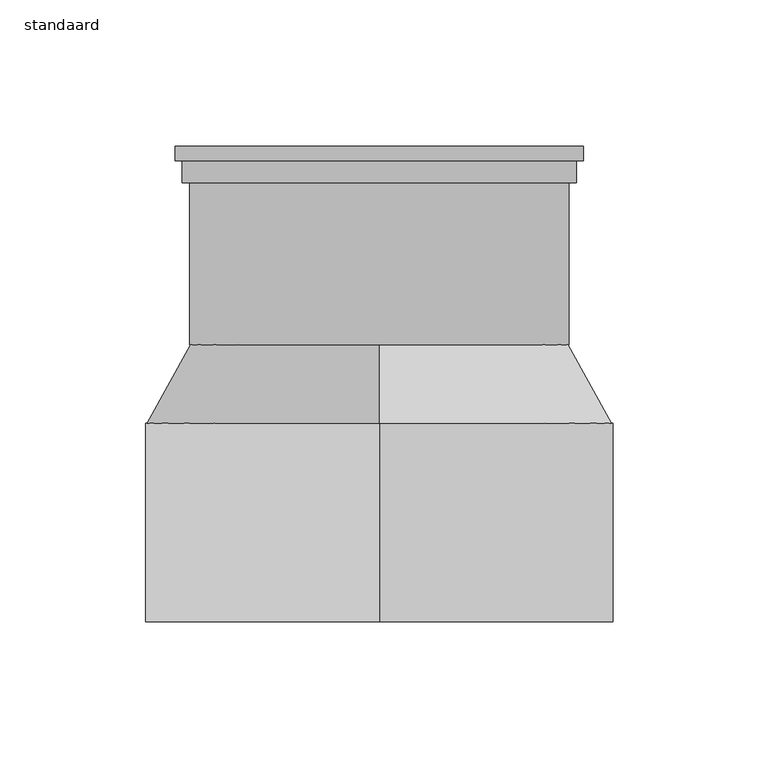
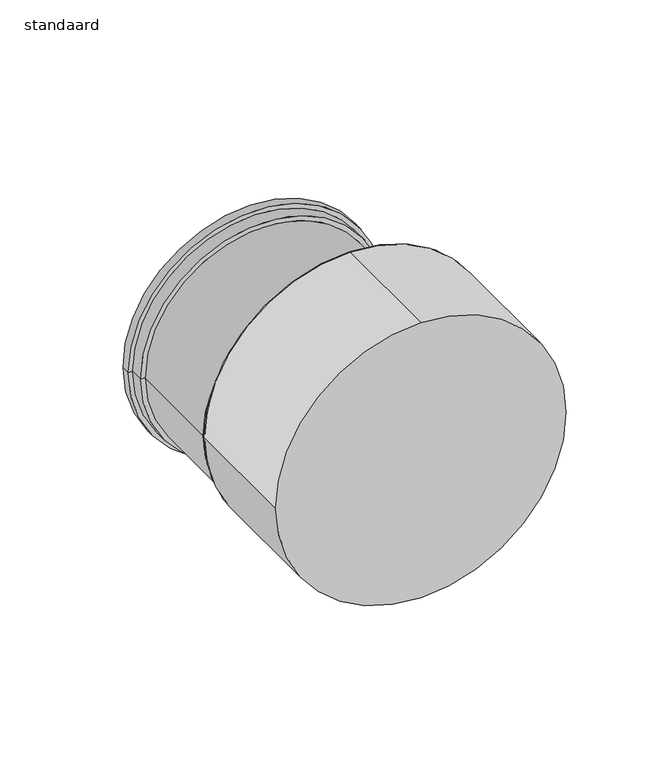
"""IFC4 building model written with IfcOpenShell, lengths in millimetres: pipe fitting geometry, 400_52_Dyka_PP_DykaStil_verloop : standaard."""

import ifcopenshell
import ifcopenshell.guid

model = None  # the IFC model being written
_history = None  # IfcOwnerHistory: only IFC2X3 demands one
_inside = {}  # id of a spatial element -> (the spatial element, [elements in it])
_under = {}  # id of a project, library or spatial element -> (it, [spatial elements below it])
_declared = {}  # id of a project -> (the project, [libraries it declares])
_typed = {}  # id of a type object -> (the type object, [elements of that type])
_made_of = {}  # id of a material, layer set ... -> (it, [elements and type objects made of it])


def new_model(schema):
    """Start an empty IFC model of exactly this schema.

    Asked for "IFC4X3", IfcOpenShell would pick the latest addendum, in which some entities
    have other attributes; the version numbers below select the first issue.
    IFC2X3 requires an IfcOwnerHistory on every rooted entity: one is made here for all.
    """
    global model, _history
    if schema == "IFC4X3":
        model = ifcopenshell.file(schema_version=(4, 3, 0, 0))
    else:
        model = ifcopenshell.file(schema=schema)
    _inside.clear()
    _under.clear()
    _declared.clear()
    _typed.clear()
    _made_of.clear()
    _history = None
    if model.schema == "IFC2X3":
        org = make("IfcOrganization", Name="unknown")
        user = make(
            "IfcPersonAndOrganization",
            ThePerson=make("IfcPerson", FamilyName="unknown"),
            TheOrganization=org,
        )
        app = make(
            "IfcApplication",
            ApplicationDeveloper=org,
            Version="unknown",
            ApplicationFullName="unknown",
            ApplicationIdentifier="unknown",
        )
        _history = make(
            "IfcOwnerHistory",
            OwningUser=user,
            OwningApplication=app,
            ChangeAction="ADDED",
            CreationDate=0,
        )
    return model


def make(cls, **values):
    """One entity of the class cls with the attributes given. An attribute that is None is left unset."""
    return model.create_entity(
        cls, **{name: value for name, value in values.items() if value is not None}
    )


def rooted(cls, **values):
    """An entity with a GlobalId (a new one), such as an element, a storey or a relation."""
    return make(cls, GlobalId=ifcopenshell.guid.new(), OwnerHistory=_history, **values)


def si_unit(unit_type, name, prefix=None):
    """IfcSIUnit, for example si_unit("LENGTHUNIT", "METRE", prefix="MILLI")."""
    return make("IfcSIUnit", UnitType=unit_type, Prefix=prefix, Name=name)


def assignment(units):
    """IfcUnitAssignment: the units of a project."""
    return None if units is None else make("IfcUnitAssignment", Units=units)


def point(xyz):
    """IfcCartesianPoint."""
    return None if xyz is None else make("IfcCartesianPoint", Coordinates=xyz)


def direction(xyz):
    """IfcDirection."""
    return None if xyz is None else make("IfcDirection", DirectionRatios=xyz)


def frame(location, z_axis=None, x_axis=None):
    """IfcAxis2Placement3D, a coordinate frame: its origin and axes. An axis left out is left unset."""
    return make(
        "IfcAxis2Placement3D",
        Location=point(location),
        Axis=direction(z_axis),
        RefDirection=direction(x_axis),
    )


def frame_2d(location, x_axis=None):
    """IfcAxis2Placement2D, a coordinate frame in the plane: its origin and x axis."""
    return make(
        "IfcAxis2Placement2D", Location=point(location), RefDirection=direction(x_axis)
    )


def origin():
    """The frame at (0, 0, 0) with its axes left unset."""
    return frame((0.0, 0.0, 0.0))


def origin_2d():
    """The frame at (0, 0) in the plane with its x axis left unset."""
    return frame_2d((0.0, 0.0))


def place(relative_to, where):
    """IfcLocalPlacement: puts the frame where relative to a parent placement (None: the world)."""
    return make(
        "IfcLocalPlacement", PlacementRelTo=relative_to, RelativePlacement=where
    )


def context(
    kind, dimensions, precision=None, world=None, true_north=None, identifier=None
):
    """IfcGeometricRepresentationContext, for example the 3D "Model" context."""
    return make(
        "IfcGeometricRepresentationContext",
        ContextIdentifier=identifier,
        ContextType=kind,
        CoordinateSpaceDimension=dimensions,
        Precision=precision,
        WorldCoordinateSystem=world,
        TrueNorth=true_north,
    )


def project(units=None, contexts=None):
    """IfcProject with its units and contexts."""
    return rooted(
        "IfcProject",
        Name="project",
        RepresentationContexts=contexts,
        UnitsInContext=assignment(units),
    )


def spatial(cls, under=None, at=None, **own):
    """A site, building, storey or space (cls), placed at a placement, below another one or the project."""
    s = rooted(cls, ObjectPlacement=at, **own)
    if under is not None:
        _under.setdefault(under.id(), (under, []))[1].append(s)
    return s


def polyline(points):
    """IfcPolyline through the points."""
    return make("IfcPolyline", Points=[point(p) for p in points])


def circle_curve(where, radius):
    """IfcCircle in the frame where."""
    return make("IfcCircle", Position=where, Radius=radius)


def trimmed(basis, trim1, trim2, sense, master):
    """IfcTrimmedCurve: the piece of a basis curve between two trims."""
    return make(
        "IfcTrimmedCurve",
        BasisCurve=basis,
        Trim1=trim1,
        Trim2=trim2,
        SenseAgreement=sense,
        MasterRepresentation=master,
    )


def segment(curve, same_sense, transition):
    """IfcCompositeCurveSegment."""
    return make(
        "IfcCompositeCurveSegment",
        Transition=transition,
        SameSense=same_sense,
        ParentCurve=curve,
    )


def composite_curve(segments, self_intersect=None):
    """IfcCompositeCurve: segments joined end to end."""
    return make("IfcCompositeCurve", Segments=segments, SelfIntersect=self_intersect)


def outline(outer, holes=None, kind="AREA"):
    """IfcArbitraryClosedProfileDef: a profile drawn as a closed curve; with holes, ...WithVoids."""
    if holes is None:
        return make("IfcArbitraryClosedProfileDef", ProfileType=kind, OuterCurve=outer)
    return make(
        "IfcArbitraryProfileDefWithVoids",
        ProfileType=kind,
        OuterCurve=outer,
        InnerCurves=holes,
    )


def extrude(swept, where, along, depth):
    """IfcExtrudedAreaSolid: the profile swept, set in the frame where, extruded along a direction by depth."""
    return make(
        "IfcExtrudedAreaSolid",
        SweptArea=swept,
        Position=where,
        ExtrudedDirection=direction(along),
        Depth=depth,
    )


def shape(context_of_items, identifier, shape_type, items):
    """IfcShapeRepresentation: the items that make up one representation, for example the "Body"."""
    return make(
        "IfcShapeRepresentation",
        ContextOfItems=context_of_items,
        RepresentationIdentifier=identifier,
        RepresentationType=shape_type,
        Items=items,
    )


def source(mapping_origin, context_of_items, identifier, shape_type, items):
    """IfcRepresentationMap: a shape defined once, which mapped items show again and again."""
    return make(
        "IfcRepresentationMap",
        MappingOrigin=mapping_origin,
        MappedRepresentation=shape(context_of_items, identifier, shape_type, items),
    )


def transform(
    local_origin,
    x_axis=None,
    y_axis=None,
    z_axis=None,
    scale=None,
    scale2=None,
    scale3=None,
    uniform=True,
):
    """IfcCartesianTransformationOperator3D, or its non-uniform kind. x_axis, y_axis, z_axis: its Axis1, 2, 3."""
    if uniform:
        return make(
            "IfcCartesianTransformationOperator3D",
            Axis1=direction(x_axis),
            Axis2=direction(y_axis),
            LocalOrigin=point(local_origin),
            Scale=scale,
            Axis3=direction(z_axis),
        )
    return make(
        "IfcCartesianTransformationOperator3DnonUniform",
        Axis1=direction(x_axis),
        Axis2=direction(y_axis),
        LocalOrigin=point(local_origin),
        Scale=scale,
        Axis3=direction(z_axis),
        Scale2=scale2,
        Scale3=scale3,
    )


def mapped(mapping_source, mapping_target):
    """IfcMappedItem: shows the shape of a source again, moved by a transform."""
    return make(
        "IfcMappedItem", MappingSource=mapping_source, MappingTarget=mapping_target
    )


def made_of(thing, what):
    """Note that an element or type object is made of a material, layer set ...; save() writes the relation."""
    if what is not None:
        _made_of.setdefault(what.id(), (what, []))[1].append(thing)
    return thing


def element(
    cls,
    number,
    at=None,
    inside=None,
    cuts=None,
    type_object=None,
    material=None,
    context=None,
    identifier="Body",
    shape_type=None,
    held_by="IfcProductDefinitionShape",
    body=None,
    shapes=None,
    **own,
):
    """One element of the class cls, such as IfcWall. Its Tag is "e" and its number.

    at: its placement. inside: the storey or other place that contains it. cuts: it is an
    opening in that element (IfcRelVoidsElement). A single representation is given by context,
    identifier, shape_type and body (its items); several are given by shapes. held_by: the class
    of the entity that holds the representations. save() writes the other relations.
    """
    e = rooted(cls, Tag="e%d" % number, ObjectPlacement=at, **own)
    if body is not None:
        shapes = [shape(context, identifier, shape_type, body)]
    if shapes is not None:
        e.Representation = make(held_by, Representations=shapes)
    if inside is not None:
        _inside.setdefault(inside.id(), (inside, []))[1].append(e)
    if cuts is not None:
        rooted(
            "IfcRelVoidsElement", RelatingBuildingElement=cuts, RelatedOpeningElement=e
        )
    if type_object is not None:
        _typed.setdefault(type_object.id(), (type_object, []))[1].append(e)
    return made_of(e, material)


def aggregate(whole, parts):
    """IfcRelAggregates: a whole, such as a stair, and the parts it consists of."""
    return rooted("IfcRelAggregates", RelatingObject=whole, RelatedObjects=parts)


def save(model, path):
    """Write the relations noted so far, then the file.

    IfcRelAggregates (storeys below a building ...), IfcRelContainedInSpatialStructure (elements
    in a storey), IfcRelDefinesByType, IfcRelAssociatesMaterial and IfcRelDeclares: one each for
    every whole, place, type object, material and project.
    """
    for whole, parts in _under.values():
        aggregate(whole, parts)
    for where, things in _inside.values():
        rooted(
            "IfcRelContainedInSpatialStructure",
            RelatedElements=things,
            RelatingStructure=where,
        )
    for kind, things in _typed.values():
        rooted("IfcRelDefinesByType", RelatedObjects=things, RelatingType=kind)
    for what, things in _made_of.values():
        rooted("IfcRelAssociatesMaterial", RelatedObjects=things, RelatingMaterial=what)
    for by, libraries in _declared.values():
        rooted("IfcRelDeclares", RelatingContext=by, RelatedDefinitions=libraries)
    model.write(path)


def plane_surface(at):
    """IfcPlane: the flat surface through the origin of the frame at, square to its z axis."""
    return make("IfcPlane", Position=at)


def cylinder_surface(at, radius):
    """IfcCylindricalSurface: all points at the distance radius from the z axis of the frame at."""
    return make("IfcCylindricalSurface", Position=at, Radius=radius)


def revolved_surface(curve, axis_point, axis_direction):
    """IfcSurfaceOfRevolution: the curve turned about the line through axis_point along axis_direction."""
    return make(
        "IfcSurfaceOfRevolution",
        SweptCurve=make("IfcArbitraryOpenProfileDef", ProfileType="CURVE", Curve=curve),
        AxisPosition=make("IfcAxis1Placement", Location=point(axis_point), Axis=direction(axis_direction)),
    )


def spline_surface(u_degree, v_degree, points, u_multiplicities, v_multiplicities, u_knots, v_knots, weights=None):
    """IfcBSplineSurfaceWithKnots; with weights, IfcRationalBSplineSurfaceWithKnots. points: one row for each step in u."""
    own = dict(
        UDegree=u_degree,
        VDegree=v_degree,
        ControlPointsList=[[point(p) for p in row] for row in points],
        SurfaceForm="UNSPECIFIED",
        UClosed=False,
        VClosed=False,
        SelfIntersect=False,
        UMultiplicities=u_multiplicities,
        VMultiplicities=v_multiplicities,
        UKnots=u_knots,
        VKnots=v_knots,
        KnotSpec="UNSPECIFIED",
    )
    if weights is None:
        return make("IfcBSplineSurfaceWithKnots", **own)
    return make("IfcRationalBSplineSurfaceWithKnots", WeightsData=weights, **own)


def advanced_brep(points, edges, surfaces, faces):
    """IfcAdvancedBrep: a solid bounded by faces that lie on surfaces and meet in shared edges.

    An edge is (start, end): straight between two places in points (the first is 0);
    or (start, end, curve); or (start, end, curve, False) where it runs against its curve.
    A face is (place in surfaces, loops), or (place, loops, False) where it looks against
    its surface's normal. A loop lists edges by number (the first is 1), with a minus sign
    where the edge is run from its end to its start. The first loop is the outer one.
    """
    corners = [point(p) for p in points]
    vertices = [make("IfcVertexPoint", VertexGeometry=c) for c in corners]
    made = []
    for start, end, *more in edges:
        made.append(
            make(
                "IfcEdgeCurve",
                EdgeStart=vertices[start],
                EdgeEnd=vertices[end],
                EdgeGeometry=more[0] if more else make("IfcPolyline", Points=[corners[start], corners[end]]),
                SameSense=more[1] if len(more) > 1 else True,
            )
        )
    hull = []
    for where, loops, *sense in faces:
        bounds = []
        for j, loop in enumerate(loops):
            ring = [make("IfcOrientedEdge", EdgeElement=made[abs(k) - 1], Orientation=k > 0) for k in loop]
            bounds.append(
                make(
                    "IfcFaceOuterBound" if j == 0 else "IfcFaceBound",
                    Bound=make("IfcEdgeLoop", EdgeList=ring),
                    Orientation=True,
                )
            )
        hull.append(make("IfcAdvancedFace", Bounds=bounds, FaceSurface=surfaces[where], SameSense=sense[0] if sense else True))
    return make("IfcAdvancedBrep", Outer=make("IfcClosedShell", CfsFaces=hull))


def standaard_776c825a(model_context):
    return source(origin(), model_context, "Body", "SolidModel", [
        advanced_brep(
        [(-67.5, 82.5, -20.5), (67.5, 82.5, -20.5), (65.0, 82.5, -20.5), (-65.0, 82.5, -20.5), (-67.5, 90.0, -20.5), (67.5, 90.0, -20.5), (-70.0, 90.0, -20.5), (70.0, 90.0, -20.5), (-70.0, 95.0, -20.5), (70.0, 95.0, -20.5), (-62.5, 95.0, -20.5), (62.5, 95.0, -20.5), (-65.0, 27.0, -20.5), (65.0, 27.0, -20.5), (-62.5, 27.0, -20.5), (62.5, 27.0, -20.5)],
        [
            (0, 1, circle_curve(frame((0.0, 82.5, -20.5), z_axis=(0.0, -1.0, 0.0), x_axis=(1.0, 0.0, 0.0)), 67.5)),
            (1, 2),
            (2, 3, circle_curve(frame((0.0, 82.5, -20.5), z_axis=(0.0, 1.0, 0.0), x_axis=(1.0, 0.0, 0.0)), 65.0)),
            (3, 0),
            (1, 0, circle_curve(frame((0.0, 82.5, -20.5), z_axis=(0.0, -1.0, 0.0), x_axis=(1.0, 0.0, 0.0)), 67.5)),
            (3, 2, circle_curve(frame((0.0, 82.5, -20.5), z_axis=(0.0, 1.0, 0.0), x_axis=(1.0, 0.0, 0.0)), 65.0)),
            (0, 4),
            (4, 5, circle_curve(frame((0.0, 90.0, -20.5), z_axis=(0.0, -1.0, 0.0), x_axis=(1.0, 0.0, 0.0)), 67.5)),
            (5, 1),
            (5, 4, circle_curve(frame((0.0, 90.0, -20.5), z_axis=(0.0, -1.0, 0.0), x_axis=(1.0, 0.0, 0.0)), 67.5)),
            (4, 6),
            (6, 7, circle_curve(frame((0.0, 90.0, -20.5), z_axis=(0.0, -1.0, 0.0), x_axis=(1.0, 0.0, 0.0)), 70.0)),
            (7, 5),
            (7, 6, circle_curve(frame((0.0, 90.0, -20.5), z_axis=(0.0, -1.0, 0.0), x_axis=(1.0, 0.0, 0.0)), 70.0)),
            (6, 8),
            (8, 9, circle_curve(frame((0.0, 95.0, -20.5), z_axis=(0.0, -1.0, 0.0), x_axis=(1.0, 0.0, 0.0)), 70.0)),
            (9, 7),
            (9, 8, circle_curve(frame((0.0, 95.0, -20.5), z_axis=(0.0, -1.0, 0.0), x_axis=(1.0, 0.0, 0.0)), 70.0)),
            (10, 11, circle_curve(frame((0.0, 95.0, -20.5), z_axis=(0.0, -1.0, 0.0), x_axis=(1.0, 0.0, 0.0)), 62.5)),
            (11, 10, circle_curve(frame((0.0, 95.0, -20.5), z_axis=(0.0, -1.0, 0.0), x_axis=(1.0, 0.0, 0.0)), 62.5)),
            (12, 13, circle_curve(frame((0.0, 27.0, -20.5), z_axis=(0.0, -1.0, 0.0), x_axis=(1.0, 0.0, 0.0)), 65.0)),
            (13, 12, circle_curve(frame((0.0, 27.0, -20.5), z_axis=(0.0, -1.0, 0.0), x_axis=(1.0, 0.0, 0.0)), 65.0)),
            (14, 15, circle_curve(frame((0.0, 27.0, -20.5), z_axis=(0.0, 1.0, 0.0), x_axis=(1.0, 0.0, 0.0)), 62.5)),
            (15, 14, circle_curve(frame((0.0, 27.0, -20.5), z_axis=(0.0, 1.0, 0.0), x_axis=(1.0, 0.0, 0.0)), 62.5)),
            (10, 14),
            (15, 11),
            (13, 2),
            (3, 12),
        ],
        [
            plane_surface(frame((0.0, 82.5, -20.5), z_axis=(0.0, -1.0, 0.0), x_axis=(1.0, 0.0, 0.0))),
            cylinder_surface(frame((0.0, 95.0, -20.5), z_axis=(0.0, 1.0, 0.0), x_axis=(1.0, 0.0, 0.0)), 67.5),
            plane_surface(frame((0.0, 90.0, -20.5), z_axis=(0.0, -1.0, 0.0), x_axis=(1.0, 0.0, 0.0))),
            cylinder_surface(frame((0.0, 95.0, -20.5), z_axis=(0.0, 1.0, 0.0), x_axis=(1.0, 0.0, 0.0)), 70.0),
            plane_surface(frame((0.0, 95.0, -20.5), z_axis=(0.0, 1.0, 0.0), x_axis=(1.0, 0.0, 0.0))),
            plane_surface(frame((0.0, 27.0, -20.5), z_axis=(0.0, -1.0, 0.0), x_axis=(0.0, 0.0, 1.0))),
            revolved_surface(polyline([(62.5, 27.0, -20.5), (62.5, 95.0, -20.5)]), (0.0, 95.0, -20.5), (0.0, -1.0, 0.0)),
            cylinder_surface(frame((0.0, 95.0, -20.5), z_axis=(0.0, 1.0, 0.0), x_axis=(1.0, 0.0, 0.0)), 65.0),
        ],
        [
            (0, [[1, 2, 3, 4]]),
            (0, [[-2, 5, -4, 6]]),
            (1, [[-1, 7, 8, 9]]),
            (1, [[-5, -9, 10, -7]]),
            (2, [[-8, 11, 12, 13]]),
            (2, [[-10, -13, 14, -11]]),
            (3, [[-12, 15, 16, 17]]),
            (3, [[-14, -17, 18, -15]]),
            (4, [[-16, -18], [19, 20]]),
            (5, [[21, 22], [23, 24]]),
            (6, [[-19, 25, -24, 26]]),
            (7, [[-22, 27, -6, 28]]),
            (7, [[-21, -28, -3, -27]]),
            (6, [[-20, -26, -23, -25]]),
        ],
    ),
        advanced_brep(
        [(0.0, 27.0, -85.5), (0.0, 27.0, 44.5), (0.0, 0.0, -80.0), (0.0, 0.0, 80.0)],
        [
            (0, 1, circle_curve(frame((0.0, 27.0, -20.5), z_axis=(0.0, 1.0, 0.0), x_axis=(0.0, 0.0, 1.0)), 65.0)),
            (1, 0, circle_curve(frame((0.0, 27.0, -20.5), z_axis=(0.0, 1.0, 0.0), x_axis=(0.0, 0.0, 1.0)), 65.0)),
            (2, 3, circle_curve(frame((0.0, 0.0, 0.0), z_axis=(0.0, -1.0, 0.0), x_axis=(0.0, 0.0, 1.0)), 80.0)),
            (3, 2, circle_curve(frame((0.0, 0.0, 0.0), z_axis=(0.0, -1.0, 0.0), x_axis=(0.0, 0.0, 1.0)), 80.0)),
            (2, 0),
            (1, 3),
        ],
        [
            plane_surface(frame((0.0, 27.0, -20.5), z_axis=(0.0, 1.0, 0.0), x_axis=(1.0, 0.0, 0.0))),
            plane_surface(frame((0.0, 0.0, 0.0), z_axis=(0.0, -1.0, 0.0), x_axis=(1.0, 0.0, 0.0))),
            spline_surface(2, 1, [[(0.0, 0.0, 80.0), (0.0, 27.0, 44.5)], [(80.0, 0.0, 80.0), (65.0, 27.0, 44.5)], [(80.0, 0.0, 0.0), (65.0, 27.0, -20.5)], [(80.0, 0.0, -80.0), (65.0, 27.0, -85.5)], [(0.0, 0.0, -80.0), (0.0, 27.0, -85.5)]], [3, 2, 3], [2, 2], [0.0, 1.0, 2.0], [0.0, 1.0], weights=[[1.0, 1.0], [0.7071067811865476, 0.7071067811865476], [1.0, 1.0], [0.7071067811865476, 0.7071067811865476], [1.0, 1.0]]),
            spline_surface(2, 1, [[(0.0, 0.0, -80.0), (0.0, 27.0, -85.5)], [(-80.0, 0.0, -80.0), (-65.0, 27.0, -85.5)], [(-80.0, 0.0, 0.0), (-65.0, 27.0, -20.5)], [(-80.0, 0.0, 80.0), (-65.0, 27.0, 44.5)], [(0.0, 0.0, 80.0), (0.0, 27.0, 44.5)]], [3, 2, 3], [2, 2], [0.0, 1.0, 2.0], [0.0, 1.0], weights=[[1.0, 1.0], [0.7071067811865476, 0.7071067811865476], [1.0, 1.0], [0.7071067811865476, 0.7071067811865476], [1.0, 1.0]]),
        ],
        [
            (0, [[1, 2]]),
            (1, [[3, 4]]),
            (2, [[-3, 5, -2, 6]]),
            (3, [[-4, -6, -1, -5]]),
        ],
    ),
        extrude(outline(composite_curve([segment(trimmed(circle_curve(origin_2d(), 80.0), [point((80.0, 0.0))], [point((0.0, -80.0))], False, "CARTESIAN"), True, "CONTINUOUS"), segment(trimmed(circle_curve(origin_2d(), 80.0), [point((0.0, -80.0))], [point((-80.0, 0.0))], False, "CARTESIAN"), True, "CONTINUOUS"), segment(trimmed(circle_curve(origin_2d(), 80.0), [point((-80.0, 0.0))], [point((0.0, 80.0))], False, "CARTESIAN"), True, "CONTINUOUS"), segment(trimmed(circle_curve(origin_2d(), 80.0), [point((0.0, 80.0))], [point((80.0, 0.0))], False, "CARTESIAN"), True, "CONTINUOUS")], self_intersect=False)), frame((0.0, -68.0, 0.0), z_axis=(0.0, 1.0, 0.0), x_axis=(0.0, 0.0, 1.0)), (0.0, 0.0, 1.0), 68.0),
    ])


if __name__ == "__main__":
    model = new_model("IFC4")
    model_context = context("Model", 3, world=origin())
    ifc_project = project(units=[si_unit("LENGTHUNIT", "METRE", prefix="MILLI")], contexts=[model_context])
    site = spatial("IfcSite", under=ifc_project)
    building = spatial("IfcBuilding", under=site)
    placement = place(None, origin())
    standaard_shape = standaard_776c825a(model_context)
    element("IfcPipeFitting", 1, ObjectType="400_52_Dyka_PP_DykaStil_verloop : standaard", at=placement, inside=building, context=model_context, shape_type="MappedRepresentation", body=[
        mapped(standaard_shape, transform((0.0, 0.0, 0.0), x_axis=(1.0, 0.0, 0.0), y_axis=(0.0, 1.0, 0.0), z_axis=(0.0, 0.0, 1.0))),
    ])
    save(model, "model.ifc")
